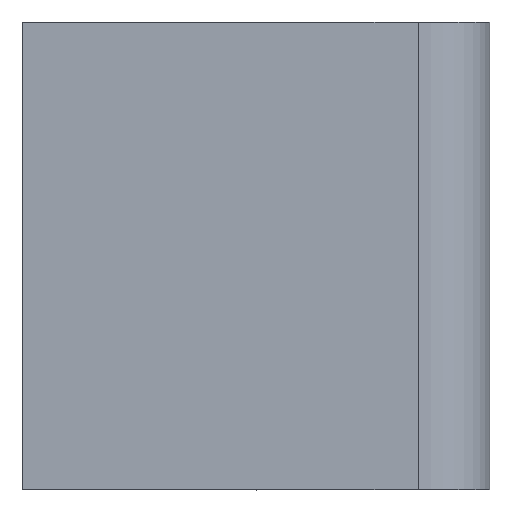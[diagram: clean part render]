
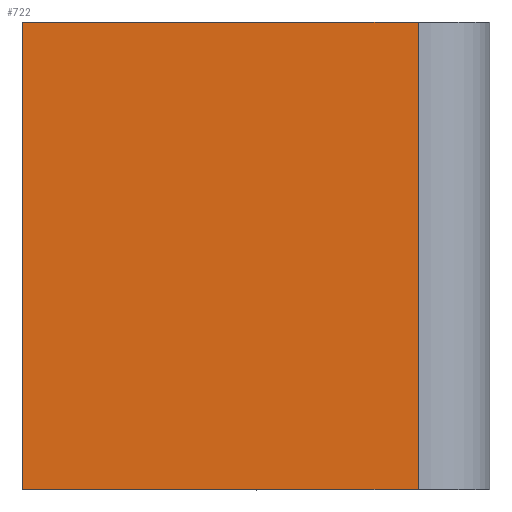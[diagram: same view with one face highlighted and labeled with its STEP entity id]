
A CAD part, top view. The second image highlights one B-rep face of the part: STEP entity #722.
In plain terms, the highlighted planar face has unit normal (0, 0, 1).
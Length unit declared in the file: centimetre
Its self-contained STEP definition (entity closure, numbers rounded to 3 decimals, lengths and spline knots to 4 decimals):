
#51 = ORIENTED_EDGE ( 'NONE', *, *, #742, .T. ) ;
#55 = DIRECTION ( 'NONE',  ( -1., 0., 0. ) ) ;
#56 = VERTEX_POINT ( 'NONE', #963 ) ;
#78 = EDGE_CURVE ( 'NONE', #394, #228, #303, .T. ) ;
#177 = DIRECTION ( 'NONE',  ( 1., 0., 0. ) ) ;
#183 = ORIENTED_EDGE ( 'NONE', *, *, #715, .T. ) ;
#186 = DIRECTION ( 'NONE',  ( 0., 0., 1. ) ) ;
#202 = CARTESIAN_POINT ( 'NONE',  ( 0., 1000., 1000. ) ) ;
#225 = VECTOR ( 'NONE', #55, 100. ) ;
#228 = VERTEX_POINT ( 'NONE', #802 ) ;
#236 = VECTOR ( 'NONE', #294, 100. ) ;
#294 = DIRECTION ( 'NONE',  ( 0., -1., 0. ) ) ;
#303 = LINE ( 'NONE', #592, #236 ) ;
#306 = VECTOR ( 'NONE', #846, 100. ) ;
#313 = CARTESIAN_POINT ( 'NONE',  ( 846.7885, 1000., 1000. ) ) ;
#321 = PLANE ( 'NONE',  #928 ) ;
#324 = ORIENTED_EDGE ( 'NONE', *, *, #624, .T. ) ;
#342 = CARTESIAN_POINT ( 'NONE',  ( 0., 0., 1000. ) ) ;
#394 = VERTEX_POINT ( 'NONE', #493 ) ;
#415 = FACE_OUTER_BOUND ( 'NONE', #720, .T. ) ;
#480 = DIRECTION ( 'NONE',  ( 1., 0., 0. ) ) ;
#493 = CARTESIAN_POINT ( 'NONE',  ( 0., 1000., 1000. ) ) ;
#536 = VERTEX_POINT ( 'NONE', #313 ) ;
#544 = CARTESIAN_POINT ( 'NONE',  ( 0., 0., 1000. ) ) ;
#558 = ORIENTED_EDGE ( 'NONE', *, *, #78, .T. ) ;
#592 = CARTESIAN_POINT ( 'NONE',  ( 0., 1000., 1000. ) ) ;
#624 = EDGE_CURVE ( 'NONE', #228, #56, #787, .T. ) ;
#708 = VECTOR ( 'NONE', #177, 100. ) ;
#715 = EDGE_CURVE ( 'NONE', #56, #536, #718, .T. ) ;
#718 = LINE ( 'NONE', #854, #306 ) ;
#720 = EDGE_LOOP ( 'NONE', ( #324, #183, #51, #558 ) ) ;
#722 = ADVANCED_FACE ( 'NONE', ( #415 ), #321, .T. ) ;
#742 = EDGE_CURVE ( 'NONE', #536, #394, #940, .T. ) ;
#787 = LINE ( 'NONE', #544, #708 ) ;
#802 = CARTESIAN_POINT ( 'NONE',  ( 0., 0., 1000. ) ) ;
#846 = DIRECTION ( 'NONE',  ( 0., 1., 0. ) ) ;
#854 = CARTESIAN_POINT ( 'NONE',  ( 846.7885, 1000., 1000. ) ) ;
#928 = AXIS2_PLACEMENT_3D ( 'NONE', #342, #186, #480 ) ;
#940 = LINE ( 'NONE', #202, #225 ) ;
#963 = CARTESIAN_POINT ( 'NONE',  ( 846.7885, 0., 1000. ) ) ;
